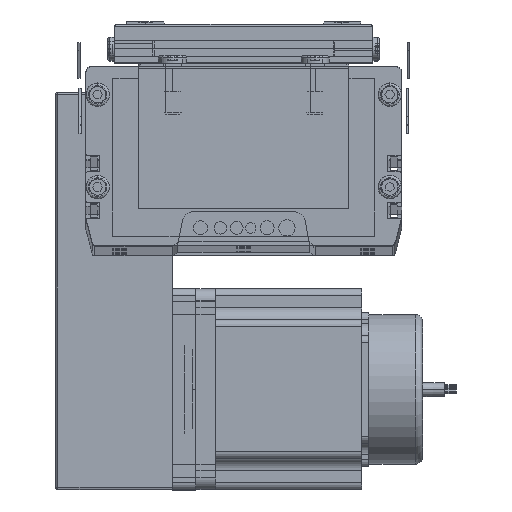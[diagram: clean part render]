
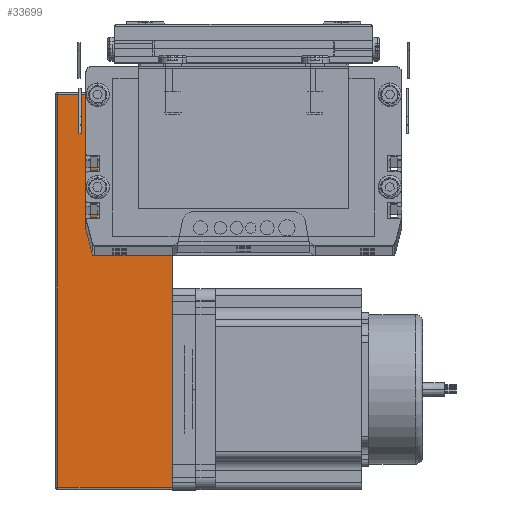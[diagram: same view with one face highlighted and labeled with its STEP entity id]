
A CAD part, top view. The second image highlights one B-rep face of the part: STEP entity #33699.
In plain terms, the highlighted planar face has unit normal (0, 0, 1) as drawn and (0, -1, 0) by its records, which use the part's own axes.
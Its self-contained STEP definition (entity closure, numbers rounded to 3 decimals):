
#33294 = VERTEX_POINT ( 'NONE', #64447 ) ;
#33360 = ORIENTED_EDGE ( 'NONE', *, *, #33702, .T. ) ;
#33369 = VERTEX_POINT ( 'NONE', #64697 ) ;
#33410 = VERTEX_POINT ( 'NONE', #64871 ) ;
#33417 = EDGE_LOOP ( 'NONE', ( #33701, #33360, #33710, #33642, #33703, #33725, #33735, #33729, #34386 ) ) ;
#33536 = EDGE_CURVE ( 'NONE', #33962, #33675, #66277, .T. ) ;
#33597 = VERTEX_POINT ( 'NONE', #66957 ) ;
#33642 = ORIENTED_EDGE ( 'NONE', *, *, #33722, .T. ) ;
#33675 = VERTEX_POINT ( 'NONE', #68251 ) ;
#33685 = VERTEX_POINT ( 'NONE', #68246 ) ;
#33699 = ADVANCED_FACE ( 'NONE', ( #68228 ), #68431, .F. ) ;
#33701 = ORIENTED_EDGE ( 'NONE', *, *, #34059, .T. ) ;
#33702 = EDGE_CURVE ( 'NONE', #33597, #33369, #68424, .T. ) ;
#33703 = ORIENTED_EDGE ( 'NONE', *, *, #33848, .T. ) ;
#33707 = EDGE_CURVE ( 'NONE', #33369, #33294, #68418, .T. ) ;
#33710 = ORIENTED_EDGE ( 'NONE', *, *, #33707, .T. ) ;
#33722 = EDGE_CURVE ( 'NONE', #33294, #33410, #68603, .T. ) ;
#33725 = ORIENTED_EDGE ( 'NONE', *, *, #33999, .T. ) ;
#33729 = ORIENTED_EDGE ( 'NONE', *, *, #33536, .T. ) ;
#33732 = EDGE_CURVE ( 'NONE', #34022, #33962, #44391, .T. ) ;
#33735 = ORIENTED_EDGE ( 'NONE', *, *, #33732, .T. ) ;
#33848 = EDGE_CURVE ( 'NONE', #33410, #33991, #68614, .T. ) ;
#33962 = VERTEX_POINT ( 'NONE', #46879 ) ;
#33991 = VERTEX_POINT ( 'NONE', #47023 ) ;
#33999 = EDGE_CURVE ( 'NONE', #33991, #34022, #47215, .T. ) ;
#34022 = VERTEX_POINT ( 'NONE', #47193 ) ;
#34059 = EDGE_CURVE ( 'NONE', #33685, #33597, #47812, .T. ) ;
#34234 = EDGE_CURVE ( 'NONE', #33675, #33685, #48542, .T. ) ;
#34386 = ORIENTED_EDGE ( 'NONE', *, *, #34234, .T. ) ;
#44378 = DIRECTION ( 'NONE',  ( 0., 0., 1. ) ) ;
#44380 = VECTOR ( 'NONE', #44378, 1000. ) ;
#44382 = CARTESIAN_POINT ( 'NONE',  ( 169., 0., 50. ) ) ;
#44391 = LINE ( 'NONE', #44382, #44380 ) ;
#46879 = CARTESIAN_POINT ( 'NONE',  ( 169., 0., 49. ) ) ;
#47023 = CARTESIAN_POINT ( 'NONE',  ( 85.9, 0., 0. ) ) ;
#47164 = DIRECTION ( 'NONE',  ( 1., 0., 0. ) ) ;
#47165 = VECTOR ( 'NONE', #47164, 1000. ) ;
#47193 = CARTESIAN_POINT ( 'NONE',  ( 169., 0., 0. ) ) ;
#47214 = CARTESIAN_POINT ( 'NONE',  ( 0., 0., 0. ) ) ;
#47215 = LINE ( 'NONE', #47214, #47165 ) ;
#47806 = DIRECTION ( 'NONE',  ( 1., 0., 0. ) ) ;
#47808 = VECTOR ( 'NONE', #47806, 1000. ) ;
#47810 = CARTESIAN_POINT ( 'NONE',  ( 0., 0., 0. ) ) ;
#47812 = LINE ( 'NONE', #47810, #47808 ) ;
#48530 = DIRECTION ( 'NONE',  ( 0., 0., -1. ) ) ;
#48532 = VECTOR ( 'NONE', #48530, 1000. ) ;
#48540 = CARTESIAN_POINT ( 'NONE',  ( 1., 0., 50. ) ) ;
#48542 = LINE ( 'NONE', #48540, #48532 ) ;
#64447 = CARTESIAN_POINT ( 'NONE',  ( 74.998, 0., 0. ) ) ;
#64697 = CARTESIAN_POINT ( 'NONE',  ( 10.902, 0., 0. ) ) ;
#64871 = CARTESIAN_POINT ( 'NONE',  ( 80.482, 0., 0. ) ) ;
#66244 = DIRECTION ( 'NONE',  ( -1., 0., 0. ) ) ;
#66246 = VECTOR ( 'NONE', #66244, 1000. ) ;
#66269 = CARTESIAN_POINT ( 'NONE',  ( 0., 0., 49. ) ) ;
#66277 = LINE ( 'NONE', #66269, #66246 ) ;
#66957 = CARTESIAN_POINT ( 'NONE',  ( 5.418, 0., 0. ) ) ;
#68228 = FACE_OUTER_BOUND ( 'NONE', #33417, .T. ) ;
#68246 = CARTESIAN_POINT ( 'NONE',  ( 1., 0., 0. ) ) ;
#68251 = CARTESIAN_POINT ( 'NONE',  ( 1., 0., 49. ) ) ;
#68311 = AXIS2_PLACEMENT_3D ( 'NONE', #68334, #68438, #68437 ) ;
#68334 = CARTESIAN_POINT ( 'NONE',  ( 0., 0., 50. ) ) ;
#68416 = CARTESIAN_POINT ( 'NONE',  ( 0., 0., 0. ) ) ;
#68418 = LINE ( 'NONE', #68416, #68503 ) ;
#68421 = DIRECTION ( 'NONE',  ( 1., 0., 0. ) ) ;
#68422 = VECTOR ( 'NONE', #68421, 1000. ) ;
#68423 = CARTESIAN_POINT ( 'NONE',  ( 0., 0., 0. ) ) ;
#68424 = LINE ( 'NONE', #68423, #68422 ) ;
#68431 = PLANE ( 'NONE',  #68311 ) ;
#68437 = DIRECTION ( 'NONE',  ( 0., 0., 1. ) ) ;
#68438 = DIRECTION ( 'NONE',  ( 0., 1., 0. ) ) ;
#68501 = DIRECTION ( 'NONE',  ( 1., 0., 0. ) ) ;
#68503 = VECTOR ( 'NONE', #68501, 1000. ) ;
#68586 = DIRECTION ( 'NONE',  ( 1., 0., 0. ) ) ;
#68588 = VECTOR ( 'NONE', #68586, 1000. ) ;
#68589 = CARTESIAN_POINT ( 'NONE',  ( 0., 0., 0. ) ) ;
#68594 = DIRECTION ( 'NONE',  ( 1., 0., 0. ) ) ;
#68600 = VECTOR ( 'NONE', #68594, 1000. ) ;
#68602 = CARTESIAN_POINT ( 'NONE',  ( 0., 0., 0. ) ) ;
#68603 = LINE ( 'NONE', #68602, #68600 ) ;
#68614 = LINE ( 'NONE', #68589, #68588 ) ;
